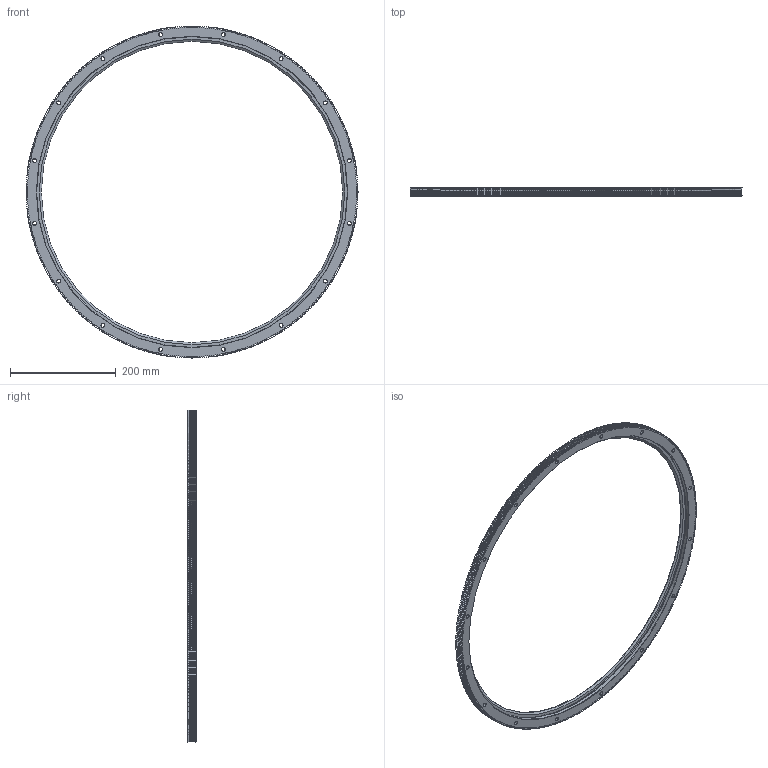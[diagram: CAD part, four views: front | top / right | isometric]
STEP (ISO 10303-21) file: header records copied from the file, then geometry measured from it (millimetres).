
FILE_DESCRIPTION( ( 'STEP AP203' ), '1' );
FILE_NAME( 'p:/temp/worker_9/temp/exporttempdir_4032_753_1i2Cz/format_0/RIM 627 R360 P.stp', '2021-09-21T06:36:14', ( 'License CC BY-ND 4.0' ), ( 'CADENAS' ), ' ', 'PARTsolutions', ' ' );
FILE_SCHEMA( ( 'CONFIG_CONTROL_DESIGN' ) );
Length unit declared in the file: millimetre
Products named in the file (1): _RIM 627 R360 P
Bounding box: 627.5 x 15.5 x 627.5 mm (x, y, z)
Volume: 612304 mm3; surface area: 192904.3 mm2
Topology: 1 solids, 1 shells, 3074 faces, 9143 edges, 6089 vertices
Faces by surface type: plane 2020, cylinder 534, cone 519, torus 1
Full cylindrical faces by diameter (mm): 6.8 x16, 11 x16, 587.5 x1, 588.7 x1
Entity records: 103246 total; most frequent: CARTESIAN_POINT 21253, ORIENTED_EDGE 18178, DIRECTION 15828, EDGE_CURVE 9089, LINE 6500, VECTOR 6500, VERTEX_POINT 6089, AXIS2_PLACEMENT_3D 4664
